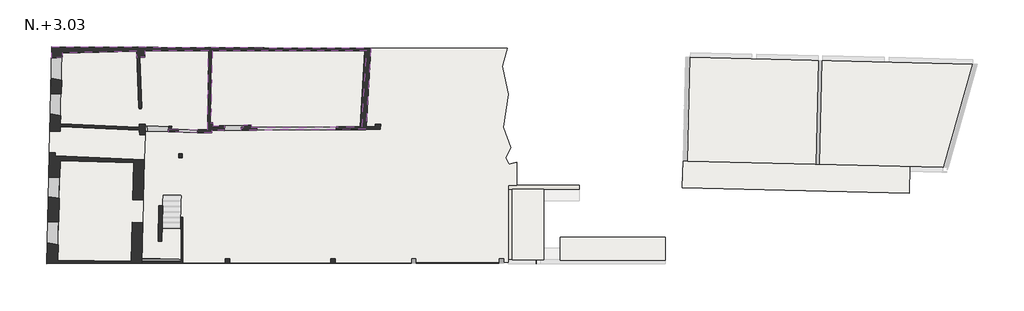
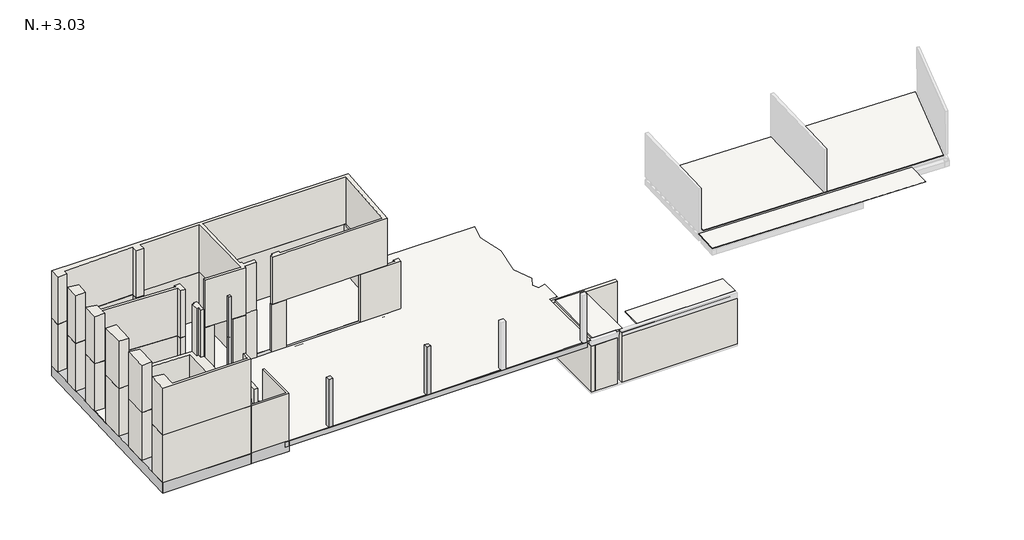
# One storey, part 1 of 2: 14 beams, 7 slabs, 7 walls, 4 columns.
"""IFC4 building model written with IfcOpenShell, lengths in millimetres."""

import ifcopenshell
import ifcopenshell.guid

model = None  # the IFC model being written
_history = None  # IfcOwnerHistory: only IFC2X3 demands one
_inside = {}  # id of a spatial element -> (the spatial element, [elements in it])
_under = {}  # id of a project, library or spatial element -> (it, [spatial elements below it])
_declared = {}  # id of a project -> (the project, [libraries it declares])
_typed = {}  # id of a type object -> (the type object, [elements of that type])
_made_of = {}  # id of a material, layer set ... -> (it, [elements and type objects made of it])


def new_model(schema):
    """Start an empty IFC model of exactly this schema.

    Asked for "IFC4X3", IfcOpenShell would pick the latest addendum, in which some entities
    have other attributes; the version numbers below select the first issue.
    IFC2X3 requires an IfcOwnerHistory on every rooted entity: one is made here for all.
    """
    global model, _history
    if schema == "IFC4X3":
        model = ifcopenshell.file(schema_version=(4, 3, 0, 0))
    else:
        model = ifcopenshell.file(schema=schema)
    _inside.clear()
    _under.clear()
    _declared.clear()
    _typed.clear()
    _made_of.clear()
    _history = None
    if model.schema == "IFC2X3":
        org = make("IfcOrganization", Name="unknown")
        user = make(
            "IfcPersonAndOrganization",
            ThePerson=make("IfcPerson", FamilyName="unknown"),
            TheOrganization=org,
        )
        app = make(
            "IfcApplication",
            ApplicationDeveloper=org,
            Version="unknown",
            ApplicationFullName="unknown",
            ApplicationIdentifier="unknown",
        )
        _history = make(
            "IfcOwnerHistory",
            OwningUser=user,
            OwningApplication=app,
            ChangeAction="ADDED",
            CreationDate=0,
        )
    return model


def make(cls, **values):
    """One entity of the class cls with the attributes given. An attribute that is None is left unset."""
    return model.create_entity(
        cls, **{name: value for name, value in values.items() if value is not None}
    )


def rooted(cls, **values):
    """An entity with a GlobalId (a new one), such as an element, a storey or a relation."""
    return make(cls, GlobalId=ifcopenshell.guid.new(), OwnerHistory=_history, **values)


def si_unit(unit_type, name, prefix=None):
    """IfcSIUnit, for example si_unit("LENGTHUNIT", "METRE", prefix="MILLI")."""
    return make("IfcSIUnit", UnitType=unit_type, Prefix=prefix, Name=name)


def assignment(units):
    """IfcUnitAssignment: the units of a project."""
    return None if units is None else make("IfcUnitAssignment", Units=units)


def point(xyz):
    """IfcCartesianPoint."""
    return None if xyz is None else make("IfcCartesianPoint", Coordinates=xyz)


def direction(xyz):
    """IfcDirection."""
    return None if xyz is None else make("IfcDirection", DirectionRatios=xyz)


def frame(location, z_axis=None, x_axis=None):
    """IfcAxis2Placement3D, a coordinate frame: its origin and axes. An axis left out is left unset."""
    return make(
        "IfcAxis2Placement3D",
        Location=point(location),
        Axis=direction(z_axis),
        RefDirection=direction(x_axis),
    )


def origin():
    """The frame at (0, 0, 0) with its axes left unset."""
    return frame((0.0, 0.0, 0.0))


def origin_with_axes():
    """The frame at (0, 0, 0) with the z axis (0, 0, 1) and the x axis (1, 0, 0) written out."""
    return frame((0.0, 0.0, 0.0), z_axis=(0.0, 0.0, 1.0), x_axis=(1.0, 0.0, 0.0))


def place(relative_to, where):
    """IfcLocalPlacement: puts the frame where relative to a parent placement (None: the world)."""
    return make(
        "IfcLocalPlacement", PlacementRelTo=relative_to, RelativePlacement=where
    )


def context(
    kind, dimensions, precision=None, world=None, true_north=None, identifier=None
):
    """IfcGeometricRepresentationContext, for example the 3D "Model" context."""
    return make(
        "IfcGeometricRepresentationContext",
        ContextIdentifier=identifier,
        ContextType=kind,
        CoordinateSpaceDimension=dimensions,
        Precision=precision,
        WorldCoordinateSystem=world,
        TrueNorth=true_north,
    )


def project(units=None, contexts=None):
    """IfcProject with its units and contexts."""
    return rooted(
        "IfcProject",
        Name="project",
        RepresentationContexts=contexts,
        UnitsInContext=assignment(units),
    )


def spatial(cls, under=None, at=None, **own):
    """A site, building, storey or space (cls), placed at a placement, below another one or the project."""
    s = rooted(cls, ObjectPlacement=at, **own)
    if under is not None:
        _under.setdefault(under.id(), (under, []))[1].append(s)
    return s


def polyline(points):
    """IfcPolyline through the points."""
    return make("IfcPolyline", Points=[point(p) for p in points])


def outline(outer, holes=None, kind="AREA"):
    """IfcArbitraryClosedProfileDef: a profile drawn as a closed curve; with holes, ...WithVoids."""
    if holes is None:
        return make("IfcArbitraryClosedProfileDef", ProfileType=kind, OuterCurve=outer)
    return make(
        "IfcArbitraryProfileDefWithVoids",
        ProfileType=kind,
        OuterCurve=outer,
        InnerCurves=holes,
    )


def extrude(swept, where, along, depth):
    """IfcExtrudedAreaSolid: the profile swept, set in the frame where, extruded along a direction by depth."""
    return make(
        "IfcExtrudedAreaSolid",
        SweptArea=swept,
        Position=where,
        ExtrudedDirection=direction(along),
        Depth=depth,
    )


def faces_of(points, faces, orient=None, outer=None):
    """IfcFace entities. A face is a list of loops; a loop is a list of indices into points, from 0.

    orient and outer hold one flag for each loop. By default every Orientation is true, the
    first loop of a face is its IfcFaceOuterBound and the others are IfcFaceBound.
    """
    made = []
    for i, loops in enumerate(faces):
        bounds = []
        for j, loop in enumerate(loops):
            is_outer = j == 0 if outer is None else outer[i][j]
            bounds.append(
                make(
                    "IfcFaceOuterBound" if is_outer else "IfcFaceBound",
                    Bound=make("IfcPolyLoop", Polygon=[points[k] for k in loop]),
                    Orientation=True if orient is None else orient[i][j],
                )
            )
        made.append(make("IfcFace", Bounds=bounds))
    return made


def faceted_brep(points, faces, orient=None, outer=None, voids=None):
    """IfcFacetedBrep: a solid bounded by flat faces; with voids (closed shells), ...WithVoids."""
    shared = [point(p) for p in points]
    hull = make("IfcClosedShell", CfsFaces=faces_of(shared, faces, orient, outer))
    if voids is None:
        return make("IfcFacetedBrep", Outer=hull)
    return make(
        "IfcFacetedBrepWithVoids",
        Outer=hull,
        Voids=[
            make(cls, CfsFaces=faces_of(shared, fs, o, b)) for cls, fs, o, b in voids
        ],
    )


def shape(context_of_items, identifier, shape_type, items):
    """IfcShapeRepresentation: the items that make up one representation, for example the "Body"."""
    return make(
        "IfcShapeRepresentation",
        ContextOfItems=context_of_items,
        RepresentationIdentifier=identifier,
        RepresentationType=shape_type,
        Items=items,
    )


def source(mapping_origin, context_of_items, identifier, shape_type, items):
    """IfcRepresentationMap: a shape defined once, which mapped items show again and again."""
    return make(
        "IfcRepresentationMap",
        MappingOrigin=mapping_origin,
        MappedRepresentation=shape(context_of_items, identifier, shape_type, items),
    )


def transform(
    local_origin,
    x_axis=None,
    y_axis=None,
    z_axis=None,
    scale=None,
    scale2=None,
    scale3=None,
    uniform=True,
):
    """IfcCartesianTransformationOperator3D, or its non-uniform kind. x_axis, y_axis, z_axis: its Axis1, 2, 3."""
    if uniform:
        return make(
            "IfcCartesianTransformationOperator3D",
            Axis1=direction(x_axis),
            Axis2=direction(y_axis),
            LocalOrigin=point(local_origin),
            Scale=scale,
            Axis3=direction(z_axis),
        )
    return make(
        "IfcCartesianTransformationOperator3DnonUniform",
        Axis1=direction(x_axis),
        Axis2=direction(y_axis),
        LocalOrigin=point(local_origin),
        Scale=scale,
        Axis3=direction(z_axis),
        Scale2=scale2,
        Scale3=scale3,
    )


def mapped(mapping_source, mapping_target):
    """IfcMappedItem: shows the shape of a source again, moved by a transform."""
    return make(
        "IfcMappedItem", MappingSource=mapping_source, MappingTarget=mapping_target
    )


def made_of(thing, what):
    """Note that an element or type object is made of a material, layer set ...; save() writes the relation."""
    if what is not None:
        _made_of.setdefault(what.id(), (what, []))[1].append(thing)
    return thing


def element(
    cls,
    number,
    at=None,
    inside=None,
    cuts=None,
    type_object=None,
    material=None,
    context=None,
    identifier="Body",
    shape_type=None,
    held_by="IfcProductDefinitionShape",
    body=None,
    shapes=None,
    **own,
):
    """One element of the class cls, such as IfcWall. Its Tag is "e" and its number.

    at: its placement. inside: the storey or other place that contains it. cuts: it is an
    opening in that element (IfcRelVoidsElement). A single representation is given by context,
    identifier, shape_type and body (its items); several are given by shapes. held_by: the class
    of the entity that holds the representations. save() writes the other relations.
    """
    e = rooted(cls, Tag="e%d" % number, ObjectPlacement=at, **own)
    if body is not None:
        shapes = [shape(context, identifier, shape_type, body)]
    if shapes is not None:
        e.Representation = make(held_by, Representations=shapes)
    if inside is not None:
        _inside.setdefault(inside.id(), (inside, []))[1].append(e)
    if cuts is not None:
        rooted(
            "IfcRelVoidsElement", RelatingBuildingElement=cuts, RelatedOpeningElement=e
        )
    if type_object is not None:
        _typed.setdefault(type_object.id(), (type_object, []))[1].append(e)
    return made_of(e, material)


def aggregate(whole, parts):
    """IfcRelAggregates: a whole, such as a stair, and the parts it consists of."""
    return rooted("IfcRelAggregates", RelatingObject=whole, RelatedObjects=parts)


def save(model, path):
    """Write the relations noted so far, then the file.

    IfcRelAggregates (storeys below a building ...), IfcRelContainedInSpatialStructure (elements
    in a storey), IfcRelDefinesByType, IfcRelAssociatesMaterial and IfcRelDeclares: one each for
    every whole, place, type object, material and project.
    """
    for whole, parts in _under.values():
        aggregate(whole, parts)
    for where, things in _inside.values():
        rooted(
            "IfcRelContainedInSpatialStructure",
            RelatedElements=things,
            RelatingStructure=where,
        )
    for kind, things in _typed.values():
        rooted("IfcRelDefinesByType", RelatedObjects=things, RelatingType=kind)
    for what, things in _made_of.values():
        rooted("IfcRelAssociatesMaterial", RelatedObjects=things, RelatingMaterial=what)
    for by, libraries in _declared.values():
        rooted("IfcRelDeclares", RelatingContext=by, RelatedDefinitions=libraries)
    model.write(path)


def muros_1_muros_1_ea26e121(model_context):
    return source(origin(), model_context, "Body", "SweptSolid", [
        extrude(outline(polyline([(773.7056596, 9477.1283443), (756.7893339, 8791.3319354), (216.0906298, 8762.4895163), (236.472405, 9585.7021848), (773.7056596, 9477.1283443)])), origin_with_axes(), (0.0, 0.0, 1.0), 2800.0),
        extrude(outline(polyline([(726.8927321, 7640.951983), (718.6114662, 7243.5818475), (4794.4421844, 7059.1834792), (4789.3968286, 7197.2750883), (5089.9482141, 7207.4676108), (5096.1057711, 6675.7228114), (4807.6610083, 6669.3999248), (4800.7723108, 6907.9924654), (714.907522, 7093.4220765), (707.6047788, 6853.2043412), (168.5264063, 6841.3874121), (191.0313797, 7750.355302), (726.8927321, 7640.951983)])), origin_with_axes(), (0.0, 0.0, 1.0), 2800.0),
        extrude(outline(polyline([(110.0970895, 4469.0213486), (141.4283569, 5742.8187201), (441.3371319, 5735.4209641), (437.4411007, 5577.4738869), (5050.5969627, 5377.9819398), (4999.4665431, 3295.7064131), (4447.927801, 3301.7085269), (4497.4442571, 5228.3208511), (706.2771097, 5321.4132239), (687.0570653, 4469.0213486), (110.0970895, 4469.0213486)])), origin_with_axes(), (0.0, 0.0, 1.0), 2800.0),
        extrude(outline(polyline([(663.5539278, 3373.4495511), (635.4130453, 2178.7233012), (52.8263359, 2150.8479365), (85.1762534, 3462.3299709), (663.5539278, 3373.4495511)])), origin_with_axes(), (0.0, 0.0, 1.0), 2800.0),
        extrude(outline(polyline([(4919.2590447, 29.2774197), (-0.0024191, 9.1434656), (26.5434598, 1085.3268361), (608.5511563, 987.3541022), (590.6369266, 192.8739512), (4370.2295226, 137.462624), (4419.2389659, 2133.3618043), (4970.5949205, 2119.8232201), (4919.2590447, 29.2774197)])), origin_with_axes(), (0.0, 0.0, 1.0), 2800.0),
        extrude(outline(polyline([(10539.8103337, 7051.7389365), (10844.3217347, 7053.3848776), (10845.1369044, 6902.5724117), (10045.2306249, 6898.1303926), (10044.4329024, 7041.7820123), (10189.6255797, 7044.7003376), (10191.9584013, 7159.8603383), (10539.2157717, 7161.7373295), (10539.8103337, 7051.7389365)])), origin_with_axes(), (0.0, 0.0, 1.0), 2800.0),
        extrude(outline(polyline([(6793.3498128, 6808.449815), (6296.9873014, 6821.9794258), (6304.5771936, 7101.8765402), (6454.3964606, 7097.7928386), (6450.8542987, 6967.8411055), (6797.4369227, 6958.3941229), (6793.3498128, 6808.449815)])), origin_with_axes(), (0.0, 0.0, 1.0), 2800.0),
        extrude(outline(polyline([(276.6718664, 11220.5013177), (16746.625913, 11145.3896797), (16507.1426607, 7084.0168311), (16987.295149, 7086.6832018), (16989.7263267, 7206.698553), (17249.8089245, 7208.1428371), (17244.3387749, 6938.1082966), (14975.0732259, 6925.5066686), (14974.2391325, 7075.7078544), (16208.7614203, 7082.3806785), (16439.5076653, 11000.5819197), (8519.5092426, 11000.5819197), (8444.0125616, 7278.9874463), (8594.0870703, 7281.1464358), (8589.2263343, 7041.1956637), (8929.4346078, 7048.0337385), (8931.2573839, 7138.0152782), (9191.4166519, 7143.2443939), (9182.9488286, 6872.3178924), (8523.0374073, 6909.8776456), (8523.490345, 6761.290476), (7792.9785335, 6781.2024158), (7797.0656433, 6931.1467237), (8315.8894203, 6917.0048745), (8369.484095, 11002.755842), (5074.9441574, 11002.755842), (5082.3279072, 10666.1035913), (4822.4011881, 10660.4026526), (4914.6370241, 8057.0453524), (4760.7788975, 8051.827601), (4661.5806035, 10976.93126), (808.6174979, 10892.471941), (802.8559852, 10658.8973011), (261.4434951, 10603.861724), (276.6718664, 11220.5013177)])), origin_with_axes(), (0.0, 0.0, 1.0), 2800.0),
    ])


def muros_2_muros_2_62093be4(model_context):
    return source(origin(), model_context, "Body", "SweptSolid", [
        extrude(outline(polyline([(6947.4785808, 148.3723097), (6947.4785808, 2399.3030939), (7036.7454884, 2399.3030939), (7036.7454884, 37.8825208), (4919.2577739, 29.2158946), (4921.5562839, 122.8276602), (6947.4785808, 148.3723097)])), origin_with_axes(), (0.0, 0.0, 1.0), 2800.0),
        extrude(outline(polyline([(5957.476782, 1155.2378128), (5757.5370054, 1160.1473478), (5806.2411759, 2991.3519334), (6006.1809092, 2986.4423994), (5957.476782, 1155.2378128)])), origin_with_axes(), (0.0, 0.0, 1.0), 2800.0),
    ])


def muros_3_muros_3_1f336510(model_context):
    return source(origin(), model_context, "Body", "SweptSolid", [
        extrude(outline(polyline([(236.472405, 9585.7021848), (773.7056596, 9477.1283443), (756.7893339, 8791.3319354), (216.0906298, 8762.4895163), (236.472405, 9585.7021848)])), frame((0.0, 0.0, 2820.0), z_axis=(0.0, 0.0, 1.0), x_axis=(1.0, 0.0, 0.0)), (0.0, 0.0, 1.0), 2815.0),
        extrude(outline(polyline([(6306.6916509, 6967.3525922), (8315.8314877, 6912.5884256), (8369.484095, 11002.755842), (5074.4462375, 11002.755842), (5081.9266474, 10661.6965007), (4672.0252493, 10652.706187), (4661.0484219, 10976.9195943), (808.6174979, 10892.471941), (802.8559852, 10658.8973011), (261.4434951, 10603.861724), (276.6718664, 11220.5013177), (16746.4845601, 11145.3903243), (16498.7361698, 6943.8498156), (10056.2246907, 6898.6668051), (10055.4539754, 7037.4550295), (10189.2243199, 7040.293247), (10191.87046, 7171.8263194), (10579.0243183, 7173.7033106), (10579.3051053, 7047.5369156), (16296.5986764, 7078.4537169), (16527.3756277, 10995.4040787), (8557.1019783, 10995.4040787), (8481.6052972, 7273.8096053), (8593.6858106, 7276.7393451), (8590.6477122, 7126.7701103), (9191.0153921, 7138.8373033), (9183.3175083, 6892.5448797), (8525.764667, 6887.9332905), (8523.0890852, 6756.8833853), (6302.6045411, 6817.4082858), (6306.6916509, 6967.3525922)])), frame((0.0, 0.0, 2810.0), z_axis=(0.0, 0.0, 1.0), x_axis=(1.0, 0.0, 0.0)), (0.0, 0.0, 1.0), 2770.0),
        extrude(outline(polyline([(718.5193301, 7239.1607716), (4794.0409246, 7054.7763886), (4788.9955688, 7192.8679977), (5089.9990703, 7203.0758527), (5096.1566901, 6671.3256328), (4807.2597485, 6664.9928342), (4800.371051, 6903.5853748), (714.773176, 7089.0028724), (707.6047788, 6853.2043412), (168.5264063, 6841.3874121), (191.0313797, 7750.355302), (726.8927321, 7640.951983), (718.5193301, 7239.1607716)])), frame((0.0, 0.0, 2810.0), z_axis=(0.0, 0.0, 1.0), x_axis=(1.0, 0.0, 0.0)), (0.0, 0.0, 1.0), 2770.0),
        extrude(outline(polyline([(715.4598426, 5728.6592649), (687.0570653, 4469.0213486), (110.0970895, 4469.0213486), (141.4283569, 5742.8187201), (715.4598426, 5728.6592649)])), frame((0.0, 0.0, 2810.0), z_axis=(0.0, 0.0, 1.0), x_axis=(1.0, 0.0, 0.0)), (0.0, 0.0, 1.0), 2770.0),
        extrude(outline(polyline([(663.5539278, 3373.4495511), (635.4130453, 2178.7233012), (52.8263359, 2150.8479365), (85.1762534, 3462.3299709), (663.5539278, 3373.4495511)])), frame((0.0, 0.0, 2810.0), z_axis=(0.0, 0.0, 1.0), x_axis=(1.0, 0.0, 0.0)), (0.0, 0.0, 1.0), 2770.0),
        extrude(outline(polyline([(4774.2409294, 140.2623625), (4781.8753132, 553.1701949), (4910.3947558, 550.7939582), (4897.9109072, 29.1900443), (-0.0024191, 9.1434656), (26.5434598, 1085.3268361), (608.5511563, 987.3541022), (589.4506213, 140.2623625), (4774.2409294, 140.2623625)])), frame((0.0, 0.0, 2810.0), z_axis=(0.0, 0.0, 1.0), x_axis=(1.0, 0.0, 0.0)), (0.0, 0.0, 1.0), 2770.0),
        extrude(outline(polyline([(5028.0256196, 5465.682078), (5010.8884985, 4749.6537314), (4859.5171739, 4752.4524837), (4863.5977742, 4973.1529203), (4744.6962043, 4970.3402342), (4752.6354343, 5399.7357621), (4871.4443841, 5397.5390657), (4873.1639975, 5469.3884709), (5028.0256196, 5465.682078)])), frame((0.0, 0.0, 2810.0), z_axis=(0.0, 0.0, 1.0), x_axis=(1.0, 0.0, 0.0)), (0.0, 0.0, 1.0), 2770.0),
    ])


model = new_model("IFC4")

# Units and contexts
model_context = context("Model", 3, world=origin())
ifc_project = project(units=[si_unit("LENGTHUNIT", "METRE", prefix="MILLI")], contexts=[model_context])

# Site, building, storey
site = spatial("IfcSite", under=ifc_project)
building = spatial("IfcBuilding", under=site)
storey = spatial("IfcBuildingStorey", under=building, Name="N.+3.03", Elevation=0.0)

# Beams
placement = place(None, origin())
element("IfcBeam", 1, ObjectType="Concrete-Rectangular Beam : VC-102(53X60)", at=placement, inside=storey, context=model_context, shape_type="Brep", body=[
    faceted_brep([(5215.2135283, 6748.5141637, 1.79e-05), (4786.4012165, 7296.2896181, -1.79e-05), (724.1919308, 7460.5751269, -0.0003407), (711.1209389, 6930.6704955, -0.0003401), (5215.2135789, 6748.5141616, -599.9999821), (711.1209389, 6930.6704955, -600.0003401), (4786.4012672, 7296.2896161, -600.0000179), (724.1919304, 7460.5751269, -600.0003407)], [[[0, 1, 2, 3]], [[4, 0, 3, 5]], [[6, 4, 5, 7]], [[1, 6, 7, 2]], [[3, 2, 7, 5]], [[1, 0, 4, 6]]]),
])
element("IfcBeam", 2, ObjectType="Concrete-Rectangular Beam : VC-102(53X60)", at=placement, inside=storey, context=model_context, shape_type="Brep", body=[
    faceted_brep([(16487.9387103, 6749.1544178, 0.0), (16519.1907348, 7279.1544178, 0.0), (5197.2180635, 7279.1544178, 0.0), (5215.1918183, 6749.1544178, 0.0), (6767.8981228, 6749.1544178, 0.0), (7067.8981228, 6749.1544178, 0.0), (16487.9387103, 6749.1544178, -600.0), (5215.1918183, 6749.1544178, -600.0), (6767.8981228, 6749.1544178, -600.0), (7067.8981228, 6749.1544178, -600.0), (16519.1907348, 7279.1544178, -600.0), (5197.2180635, 7279.1544178, -600.0)], [[[0, 1, 2, 3, 4, 5]], [[6, 0, 5, 4, 3, 7, 8, 9]], [[10, 6, 9, 8, 7, 11]], [[1, 10, 11, 2]], [[1, 0, 6, 10]], [[3, 2, 11, 7]]]),
    faceted_brep([(4579.4546245, 6749.1544178, 0.0), (4602.3740313, 7279.1544178, 0.0), (4602.3740313, 7279.1544178, -600.0), (4579.4546245, 6749.1544178, -600.0), (4799.8150795, 7279.1544178, 0.0), (4799.8151285, 7279.1544178, -600.0), (5214.7123214, 6749.1544178, 0.0), (5214.7123704, 6749.1544178, -600.0), (5109.9499583, 6749.1544178, 0.0), (5109.9499583, 6749.1544178, -600.0)], [[[0, 1, 2, 3]], [[2, 1, 4, 5]], [[4, 6, 7, 5]], [[1, 0, 8, 6, 4]], [[0, 3, 9, 7, 6, 8]], [[3, 2, 5, 7, 9]]]),
])
element("IfcBeam", 3, ObjectType="Concrete-Rectangular Beam : VC-103A(30X60)", at=placement, inside=storey, context=model_context, shape_type="Brep", body=[
    faceted_brep([(7067.8981228, 5443.1244414, 0.0), (7067.8981228, 5743.1244414, 0.0), (6767.8981228, 5743.1244414, 0.0), (5066.4450332, 5743.1244414, 0.0), (5053.471784, 5443.1244414, 0.0), (7067.8981228, 5743.1244414, -600.0), (6767.8981228, 5743.1244414, -600.0), (5066.4450332, 5743.1244414, -600.0), (7067.8981228, 5443.1244414, -600.0), (5053.471784, 5443.1244414, -600.0)], [[[0, 1, 2, 3, 4]], [[1, 5, 6, 7, 3, 2]], [[5, 8, 9, 7, 6]], [[8, 0, 4, 9]], [[4, 3, 7, 9]], [[1, 0, 8, 5]]]),
])
element("IfcBeam", 4, ObjectType="Concrete-Rectangular Beam : VC-104(41X60)", at=placement, inside=storey, context=model_context, shape_type="Brep", body=[
    faceted_brep([(4918.9639007, 17.2472767, 6.11e-05), (4398.8263014, 425.4260476, -6.11e-05), (550.3252561, 411.932116, -0.0009683), (-6.93e-05, -2e-07, -0.0010983), (4918.9640371, 17.2472772, -599.9999389), (0.0, 0.0, -600.0010983), (4398.8264378, 425.4260481, -600.0000611), (550.3253254, 411.9321163, -600.0009683)], [[[0, 1, 2, 3]], [[4, 0, 3, 5]], [[6, 4, 5, 7]], [[1, 6, 7, 2]], [[2, 7, 5, 3]], [[1, 0, 4, 6]]]),
])
element("IfcBeam", 5, ObjectType="Concrete-Rectangular Beam : VC-105(53X60)", at=placement, inside=storey, context=model_context, shape_type="Brep", body=[
    faceted_brep([(4398.8264352, 425.4259426, 0.0), (4918.9639007, 17.2472767, 0.0), (4992.5317704, 3013.4569836, 0.0), (4999.8956598, 3313.3672174, 0.0), (5050.5037266, 5374.4895749, 0.0), (4520.7848557, 5392.444898, 0.0), (4398.8264378, 425.4260481, -600.0), (4520.7848557, 5392.444898, -600.0), (4918.9639033, 17.2473822, -600.0), (5050.5037266, 5374.4895749, -600.0), (4999.8956598, 3313.3672174, -600.0), (4992.5317704, 3013.4569836, -600.0)], [[[0, 1, 2, 3, 4, 5]], [[6, 0, 5, 7]], [[8, 6, 7, 9, 10, 11]], [[1, 8, 11, 10, 9, 4, 3, 2]], [[4, 9, 7, 5]], [[1, 0, 6, 8]]]),
])
element("IfcBeam", 6, ObjectType="Concrete-Rectangular Beam : VC-105(53X60)", at=placement, inside=storey, context=model_context, shape_type="Brep", body=[
    faceted_brep([(5109.9499583, 6749.1544178, 0.0), (4579.4546245, 6749.1544178, 0.0), (4520.7848557, 5392.444898, 0.0), (5050.5037266, 5374.4895749, 0.0), (5053.471784, 5443.1244414, 0.0), (5066.4450332, 5743.1244414, 0.0), (5109.9499583, 6749.1544178, -600.0), (5050.5037266, 5374.4895749, -600.0), (5053.471784, 5443.1244414, -600.0), (5066.4450332, 5743.1244414, -600.0), (4579.4546245, 6749.1544178, -600.0), (4520.7848557, 5392.444898, -600.0)], [[[0, 1, 2, 3, 4, 5]], [[6, 0, 5, 4, 3, 7, 8, 9]], [[10, 6, 9, 8, 7, 11]], [[2, 1, 10, 11]], [[1, 0, 6, 10]], [[2, 11, 7, 3]]]),
])
element("IfcBeam", 7, ObjectType="Concrete-Rectangular Beam : VC-105(54X60)", at=placement, inside=storey, context=model_context, shape_type="Brep", body=[
    faceted_brep([(1.3e-06, 5.26e-05, -0.0010537), (550.3252561, 411.932116, -0.0010129), (805.0368071, 10738.0673379, -2.25e-05), (276.7725886, 11220.5008547, 2.25e-05), (0.0, 0.0, -600.0010537), (276.77259, 11220.5009112, -599.9999775), (550.3252548, 411.9320634, -600.0010129), (805.0368085, 10738.0673944, -600.0000225)], [[[0, 1, 2, 3]], [[4, 0, 3, 5]], [[6, 4, 5, 7]], [[1, 6, 7, 2]], [[1, 0, 4, 6]], [[2, 7, 5, 3]]]),
])
element("IfcBeam", 8, ObjectType="Concrete-Rectangular Beam : VC-105A(30X60)", at=placement, inside=storey, context=model_context, shape_type="Brep", body=[
    faceted_brep([(6064.1848953, 3285.0605362, 0.0), (5764.2909433, 3293.0367538, 0.0), (5756.2645335, 2993.1441409, 0.0), (5682.2908303, 229.2474963, 0.0), (5982.3982601, 229.2474963, 0.0), (5764.2909433, 3293.0367538, -600.0), (5756.2645335, 2993.1441409, -600.0), (5682.2908303, 229.2474963, -600.0), (6064.1848953, 3285.0605362, -600.0), (5982.3982601, 229.2474963, -600.0)], [[[0, 1, 2, 3, 4]], [[1, 5, 6, 7, 3, 2]], [[5, 8, 9, 7, 6]], [[8, 0, 4, 9]], [[4, 3, 7, 9]], [[1, 0, 8, 5]]]),
])
element("IfcBeam", 9, ObjectType="Concrete-Rectangular Beam : VC-105A(30X60)", at=placement, inside=storey, context=model_context, shape_type="SweptSolid", body=[
    extrude(outline(polyline([(5764.2909433, 3293.0367538), (5756.2645335, 2993.1441409), (4992.5317704, 3013.4569836), (4999.8956598, 3313.3672174), (5764.2909433, 3293.0367538)])), frame((0.0, 0.0, -600.0), z_axis=(0.0, 0.0, 1.0), x_axis=(1.0, 0.0, 0.0)), (0.0, 0.0, 1.0), 600.0),
])
element("IfcBeam", 10, ObjectType="Concrete-Rectangular Beam : VC-105B(30X60)", at=placement, inside=storey, context=model_context, shape_type="SweptSolid", body=[
    extrude(outline(polyline([(6837.4740086, 2399.3645951), (7037.4740086, 2399.3645951), (7037.4740086, 229.2474963), (6837.4740086, 229.2474963), (6837.4740086, 2399.3645951)])), frame((0.0, 0.0, -600.0), z_axis=(0.0, 0.0, 1.0), x_axis=(1.0, 0.0, 0.0)), (0.0, 0.0, 1.0), 600.0),
])
element("IfcBeam", 11, ObjectType="Concrete-Rectangular Beam : VC-106(30X60)", at=placement, inside=storey, context=model_context, shape_type="SweptSolid", body=[
    extrude(outline(polyline([(6767.8981228, 6749.1544178), (7067.8981228, 6749.1544178), (7067.8981228, 5743.1244414), (6767.8981228, 5743.1244414), (6767.8981228, 6749.1544178)])), frame((0.0, 0.0, -600.0), z_axis=(0.0, 0.0, 1.0), x_axis=(1.0, 0.0, 0.0)), (0.0, 0.0, 1.0), 600.0),
])
element("IfcBeam", 12, ObjectType="Concrete-Rectangular Beam : VC-109(32X30)", at=placement, inside=storey, context=model_context, shape_type="Brep", body=[
    faceted_brep([(23621.5331082, 33.7405463, 0.0), (23621.5331082, 33.7405463, -300.0), (23621.4603626, 263.7405348, -300.0), (23621.4603626, 263.7405348, 0.0), (7037.4740086, 258.4952623, 0.0), (7037.4740086, 229.2474963, 0.0), (7037.4740086, 29.2474963, 0.0), (6837.4740086, 29.2474963, 0.0), (6837.4740086, 28.4319938, 0.0), (7037.4740086, 258.4952623, -300.0), (6837.4740086, 28.4319938, -300.0), (6837.4740086, 29.2474963, -300.0), (7037.4740086, 29.2474963, -300.0)], [[[0, 1, 2, 3]], [[0, 3, 4, 5, 6, 7, 8]], [[3, 2, 9, 4]], [[2, 1, 10, 11, 12, 9]], [[1, 0, 8, 10]], [[6, 12, 11, 7]], [[12, 6, 5, 4, 9]], [[10, 8, 7, 11]]]),
])
element("IfcBeam", 13, ObjectType="Concrete-Rectangular Beam : VC-109A(30X60)", at=placement, inside=storey, context=model_context, shape_type="Brep", body=[
    faceted_brep([(4912.3935032, 229.2474963, 0.0), (4912.3935032, 229.2474963, -600.0), (4912.3935032, 29.2474963, -600.0), (4912.3935032, 29.2474963, 0.0), (6837.4740086, 29.2474963, 0.0), (7037.4740086, 29.2474963, 0.0), (7037.4740086, 229.2474963, 0.0), (6837.4740086, 229.2474963, 0.0), (5982.3982601, 229.2474963, 0.0), (5682.2908303, 229.2474963, 0.0), (7037.4740086, 29.2474963, -600.0), (7037.4740086, 29.2474963, -300.0), (5682.2908303, 229.2474963, -600.0), (5982.3982601, 229.2474963, -600.0), (6837.4740086, 229.2474963, -600.0), (7037.4740086, 229.2474963, -600.0)], [[[0, 1, 2, 3]], [[0, 3, 4, 5, 6, 7, 8, 9]], [[3, 2, 10, 11, 5, 4]], [[2, 1, 12, 13, 14, 15, 10]], [[1, 0, 9, 8, 7, 6, 15, 14, 13, 12]], [[6, 5, 11, 10, 15]]]),
])
element("IfcBeam", 14, ObjectType="Concrete-Rectangular Beam : VG-103(35x60)", at=placement, inside=storey, context=model_context, shape_type="Brep", body=[
    faceted_brep([(4528.7442414, 5467.7124584, 0.0), (4513.6229164, 5118.0392602, 0.0), (4513.6229932, 5118.0392569, -600.0), (4528.7443183, 5467.7124551, -600.0), (679.1409445, 5634.1853341, -0.0004941), (670.5087431, 5284.2315192, -0.0004933), (670.5087431, 5284.2315192, -600.0004933), (679.1409443, 5634.1853341, -600.0004941)], [[[0, 1, 2, 3]], [[1, 0, 4, 5]], [[2, 1, 5, 6]], [[3, 2, 6, 7]], [[0, 3, 7, 4]], [[5, 4, 7, 6]]]),
])

# Columns
element("IfcColumn", 15, ObjectType="Concrete-Rectangular-Column : COLUMNA 15X15", at=placement, inside=storey, context=model_context, shape_type="Brep", body=[
    faceted_brep([(6992.1130607, 5659.7579037, 500.0), (6993.6750519, 5509.7660366, 500.0), (6843.6831849, 5508.2040454, 500.0), (6842.1211936, 5658.1959124, 500.0), (6992.1130607, 5659.7579037, 2800.0), (6993.0513506, 5569.6576194, 2800.0), (6993.0513506, 5569.6576194, 2820.0), (6992.1130607, 5659.7579037, 2820.0), (6992.1130607, 5659.7579037, 5190.0), (6993.6750519, 5509.7660366, 5190.0), (6843.6831849, 5508.2040454, 5190.0), (6843.6831849, 5508.2040454, 2820.0), (6932.7496062, 5509.1315688, 2820.0), (6932.7496062, 5509.1315688, 2800.0), (6843.6831849, 5508.2040454, 2800.0), (6842.1211936, 5658.1959124, 5190.0), (6842.1211936, 5658.1959124, 2820.0), (6931.2494577, 5569.3148968, 2800.0), (6949.7975337, 5659.3172366, 2800.0), (6919.7975337, 5659.0048214, 2800.0), (6842.1211936, 5658.1959124, 2800.0), (6931.2494577, 5569.3148968, 2820.0)], [[[0, 1, 2, 3]], [[1, 0, 4, 5, 6, 7, 8, 9]], [[2, 1, 9, 10, 11, 12, 13, 14]], [[10, 15, 16, 11]], [[15, 8, 7, 16]], [[9, 8, 15, 10]], [[13, 17, 5, 4, 18, 19, 20, 14]], [[6, 21, 12, 11, 16, 7]], [[21, 17, 13, 12]], [[3, 2, 14, 20]], [[17, 21, 6, 5]], [[0, 3, 20, 19, 18, 4]]]),
])
element("IfcColumn", 16, ObjectType="Concrete-Rectangular-Column : COLUMNA PATIO", at=placement, inside=storey, context=model_context, shape_type="SweptSolid", body=[
    extrude(outline(polyline([(9466.5068452, 267.8142238), (9466.5068452, 37.8142238), (9236.5068452, 37.8142238), (9236.5068452, 267.8142238), (9466.5068452, 267.8142238)])), frame((0.0, 0.0, 10.0), z_axis=(0.0, 0.0, 1.0), x_axis=(1.0, 0.0, 0.0)), (0.0, 0.0, 1.0), 2810.0),
])
element("IfcColumn", 17, ObjectType="Concrete-Rectangular-Column : COLUMNA PATIO", at=placement, inside=storey, context=model_context, shape_type="Brep", body=[
    faceted_brep([(14919.6402407, 30.9518977, 0.0), (14689.6402407, 30.9518977, 0.0), (14689.6402407, 51.5060275, 0.0), (14919.6402407, 52.3124725, 0.0), (14919.6402407, 260.9518977, 2820.0), (14919.6402407, 30.9518977, 2820.0), (14919.6402407, 52.3124725, 10.0), (14919.6402407, 260.9518977, 10.0), (14689.6402407, 30.9518977, 2820.0), (14689.6402407, 260.9518977, 2820.0), (14689.6402407, 260.9518977, 10.0), (14689.6402407, 51.5060275, 10.0)], [[[0, 1, 2, 3]], [[4, 5, 0, 3, 6, 7]], [[1, 0, 5, 8]], [[1, 8, 9, 10, 11, 2]], [[9, 4, 7, 10]], [[5, 4, 9, 8]], [[6, 11, 10, 7]], [[11, 6, 3, 2]]]),
])
element("IfcColumn", 18, ObjectType="Concrete-Rectangular-Column : PEDESTAL EN PIEDRA", at=placement, inside=storey, context=model_context, shape_type="SweptSolid", body=[
    extrude(outline(polyline([(7017.8981228, 5683.9809745), (7017.8981228, 5483.9809745), (6817.8981228, 5483.9809745), (6817.8981228, 5683.9809745), (7017.8981228, 5683.9809745)])), frame((0.0, 0.0, 10.0), z_axis=(0.0, 0.0, 1.0), x_axis=(1.0, 0.0, 0.0)), (0.0, 0.0, 1.0), 510.0),
])

# Slabs
element("IfcSlab", 19, ObjectType="TABLADO DE MADERA", at=placement, inside=storey, context=model_context, shape_type="SweptSolid", body=[
    extrude(outline(polyline([(718.6138864, 7234.4383807), (808.6199183, 10883.3284741), (4661.5830238, 10967.7877932), (4762.9205628, 7979.6032785), (4912.9322045, 7981.802718), (4822.4036084, 10651.2591858), (5082.3303974, 10656.9569407), (5074.9465778, 10993.6123751), (8369.4865153, 10993.6123751), (8315.8918406, 6907.8614076), (6450.8567191, 6958.6976382), (6454.398881, 7088.6493719), (5089.3743643, 7125.8565526), (5088.3383736, 7196.5157646), (4789.7013107, 7189.9110242), (4794.4447414, 7050.0400062), (718.6138864, 7234.4383807)])), frame((0.0, 0.0, -10.0), z_axis=(0.0, 0.0, 1.0), x_axis=(1.0, 0.0, 0.0)), (0.0, 0.0, 1.0), 20.0),
    extrude(outline(polyline([(16439.5100856, 10991.4384529), (16208.7638408, 7073.2372135), (10539.8127541, 7042.5954712), (10542.2163957, 7161.251509), (8931.2598042, 7128.8718113), (8929.4370282, 7038.8902717), (8589.2287546, 7032.0521968), (8594.0894907, 7272.0029689), (8444.014982, 7269.8439795), (8519.511663, 10991.4384529), (16439.5100856, 10991.4384529)])), frame((0.0, 0.0, -10.0), z_axis=(0.0, 0.0, 1.0), x_axis=(1.0, 0.0, 0.0)), (0.0, 0.0, 1.0), 20.0),
    extrude(outline(polyline([(4495.2396504, 5219.2315792), (4447.9410641, 3293.0066816), (4999.2947483, 3279.4681531), (4970.8194509, 2119.8177068), (4419.4657667, 2133.3562352), (4370.2319417, 128.3191585), (580.3503729, 183.8316164), (706.2795288, 5312.2697584), (4495.2396504, 5219.2315792)])), frame((0.0, 0.0, -10.0), z_axis=(0.0, 0.0, 1.0), x_axis=(1.0, 0.0, 0.0)), (0.0, 0.0, 1.0), 20.0),
])
element("IfcSlab", 20, ObjectType="PLACA BAÑOS", at=placement, inside=storey, context=model_context, shape_type="Brep", body=[
    faceted_brep([(25671.0195422, 3855.4351722, -100.0), (25671.0195422, 204.8486939, -100.0), (25521.8899375, 204.8486939, -100.0), (25291.8899375, 204.8486939, -100.0), (24049.5548544, 204.8486939, -100.0), (24049.5548544, 3850.4095558, -100.0), (25671.0195422, 3855.4351722, 0.0), (24049.5548544, 3850.4095558, 0.0), (24049.5548544, 204.8486939, 0.0), (25291.8899375, 204.8486939, 0.0), (25521.8899375, 204.8486939, 0.0), (25671.0195422, 204.8486939, 0.0)], [[[0, 1, 2, 3, 4, 5]], [[6, 7, 8, 9, 10, 11]], [[1, 0, 6, 11]], [[4, 3, 2, 1, 11, 10, 9, 8]], [[5, 4, 8, 7]], [[0, 5, 7, 6]]]),
])
element("IfcSlab", 21, ObjectType="PLACA BAÑOS 2", at=placement, inside=storey, context=model_context, shape_type="SweptSolid", body=[
    extrude(outline(polyline([(26521.2093794, 1372.9230564), (31958.4629753, 1372.9230564), (31958.4629753, 194.2471083), (26521.2093794, 194.2471083), (26521.2093794, 1372.9230564)])), frame((0.0, 0.0, -80.0), z_axis=(0.0, 0.0, 1.0), x_axis=(1.0, 0.0, 0.0)), (0.0, 0.0, 1.0), 80.0),
])
element("IfcSlab", 22, ObjectType="ACABADO EN MADERA 2", at=placement, inside=storey, context=model_context, shape_type="Brep", body=[
    faceted_brep([(47807.743374, 10301.9743187, 25.0), (46314.7881667, 5000.1334369, 25.0), (46311.06277, 4986.9036625, 25.0), (46286.5557776, 4987.5016813, 25.0), (33127.5057583, 5308.6083716, 25.0), (33258.0174247, 10657.0162357, 25.0), (47807.743374, 10301.9743187, 45.0), (33258.0174247, 10657.0162357, 45.0), (33127.5057583, 5308.6083716, 45.0), (46286.5557776, 4987.5016813, 45.0), (46311.06277, 4986.9036625, 45.0), (46314.7881667, 5000.1334369, 45.0)], [[[0, 1, 2, 3, 4, 5]], [[6, 7, 8, 9, 10, 11]], [[2, 1, 0, 6, 11, 10]], [[5, 4, 8, 7]], [[0, 5, 7, 6]], [[4, 3, 2, 10, 9, 8]]]),
])
element("IfcSlab", 23, ObjectType="PLACA PATIO", at=placement, inside=storey, context=model_context, shape_type="Brep", body=[
    faceted_brep([(5050.5993789, 5368.8383535, 0.0), (5096.1081915, 6666.5793445, 0.0), (5093.3453671, 6855.0163588, 0.0), (6293.3203905, 6812.9359754, 0.0), (8523.4927653, 6752.1470091, 0.0), (8526.5547056, 6902.1131811, 0.0), (9175.8462152, 6863.5959104, 0.0), (10186.6748111, 6889.7723765, 0.0), (16507.145081, 6924.8710511, 0.0), (16507.145081, 7074.8733643, 0.0), (16746.6283333, 11136.2462128, 0.0), (23789.673446, 11126.968774, 0.0), (23541.2071627, 10199.6799808, 0.0), (23848.9164651, 8752.0215317, 0.0), (23580.2282233, 7055.5907378, 0.0), (23988.7676858, 5991.3090516, 0.0), (23725.4531959, 5474.5252676, 0.0), (23883.2668088, 5150.9594109, 0.0), (24279.0474727, 5235.085188, 0.0), (24279.0474727, 4055.085188, 0.0), (23847.0548544, 4055.085188, 0.0), (23847.0548544, 83.6145095, 0.0), (23619.390492, 82.8162539, 0.0), (23389.390492, 82.009809, 0.0), (19080.3822296, 66.901209, 0.0), (18850.3822296, 66.0947641, 0.0), (14919.6402407, 52.3124725, 0.0), (14689.6402407, 51.5060275, 0.0), (7015.1432979, 24.5970737, 0.0), (7015.1432979, 234.0097106, 0.0), (6865.0980768, 234.0097106, 0.0), (4925.6500419, 280.3031029, 0.0), (5050.5993789, 5368.8383535, 10.0), (4925.6500419, 280.3031029, 10.0), (6865.0980768, 234.0097106, 10.0), (7015.1432979, 234.0097106, 10.0), (7015.1432979, 24.5970737, 10.0), (14689.6402407, 51.5060275, 10.0), (14919.6402407, 52.3124725, 10.0), (18850.3822296, 66.0947641, 10.0), (19080.3822296, 66.901209, 10.0), (23389.390492, 82.009809, 10.0), (23619.390492, 82.8162539, 10.0), (23847.0548544, 83.6145095, 10.0), (23847.0548544, 4055.085188, 10.0), (24279.0474727, 4055.085188, 10.0), (24279.0474727, 5235.085188, 10.0), (23883.2668088, 5150.9594109, 10.0), (23725.4531959, 5474.5252676, 10.0), (23988.7676858, 5991.3090516, 10.0), (23580.2282233, 7055.5907378, 10.0), (23848.9164651, 8752.0215317, 10.0), (23541.2071627, 10199.6799808, 10.0), (23789.673446, 11126.968774, 10.0), (16746.6283333, 11136.2462128, 10.0), (16507.145081, 7074.8733643, 10.0), (16507.145081, 6924.8710511, 10.0), (10186.6748111, 6889.7723765, 10.0), (9175.8462152, 6863.5959104, 10.0), (8526.5547056, 6902.1131811, 10.0), (8523.4927653, 6752.1470091, 10.0), (6293.3203905, 6812.9359754, 10.0), (5093.3453671, 6855.0163588, 10.0), (5096.1081915, 6666.5793445, 10.0)], [[[0, 1, 2, 3, 4, 5, 6, 7, 8, 9, 10, 11, 12, 13, 14, 15, 16, 17, 18, 19, 20, 21, 22, 23, 24, 25, 26, 27, 28, 29, 30, 31]], [[32, 33, 34, 35, 36, 37, 38, 39, 40, 41, 42, 43, 44, 45, 46, 47, 48, 49, 50, 51, 52, 53, 54, 55, 56, 57, 58, 59, 60, 61, 62, 63]], [[1, 0, 32, 63]], [[2, 1, 63, 62]], [[3, 2, 62, 61]], [[4, 3, 61, 60]], [[5, 4, 60, 59]], [[6, 5, 59, 58]], [[7, 6, 58, 57]], [[8, 7, 57, 56]], [[9, 8, 56, 55]], [[10, 9, 55, 54]], [[11, 10, 54, 53]], [[12, 11, 53, 52]], [[13, 12, 52, 51]], [[14, 13, 51, 50]], [[15, 14, 50, 49]], [[16, 15, 49, 48]], [[17, 16, 48, 47]], [[18, 17, 47, 46]], [[19, 18, 46, 45]], [[20, 19, 45, 44]], [[28, 27, 26, 25, 24, 23, 22, 21, 43, 42, 41, 40, 39, 38, 37, 36]], [[29, 28, 36, 35]], [[30, 29, 35, 34]], [[31, 30, 34, 33]], [[0, 31, 33, 32]], [[21, 20, 44, 43]]]),
])
element("IfcSlab", 24, ObjectType="PLACA PATIO", at=placement, inside=storey, context=model_context, shape_type="SweptSolid", body=[
    extrude(outline(polyline([(4807.6634287, 6660.256458), (5096.1081915, 6666.5793445), (5050.5993789, 5368.8383535), (437.4435198, 5568.3304213), (441.1610289, 5681.6959423), (140.2764642, 5686.8788712), (168.5288266, 6832.2439452), (707.6071991, 6844.0608743), (714.9099424, 7084.2786096), (4800.7369759, 6900.1566656), (4807.6634287, 6660.256458)])), origin_with_axes(), (0.0, 0.0, 1.0), 10.0),
])
element("IfcSlab", 25, ObjectType="PLACA PATIO", at=placement, inside=storey, context=model_context, shape_type="SweptSolid", body=[
    extrude(outline(polyline([(32877.580157, 5314.7070476), (44584.0953198, 5029.0450634), (44550.1866812, 3639.4587206), (32843.6715184, 3925.1207048), (32877.580157, 5314.7070476)])), frame((0.0, 0.0, -90.0), z_axis=(0.0, 0.0, 1.0), x_axis=(1.0, 0.0, 0.0)), (0.0, 0.0, 1.0), 10.0),
])

# Walls
element("IfcWall", 26, ObjectType="MURO ESCALERA", at=placement, inside=storey, context=model_context, shape_type="Brep", body=[
    faceted_brep([(23848.883946, 3849.7875904, -3000.0), (24048.883946, 3850.4074764, -3000.0), (27510.7393338, 3861.1372549, -3000.0), (27510.7393338, 3861.1372549, -100.0), (23848.883946, 3849.7875904, -100.0), (23848.883946, 3849.7875904, -300.0), (23848.883946, 4049.7885511, -3000.0), (23848.883946, 4049.7885511, -100.0), (27510.1194507, 4061.1362943, -100.0), (27510.1194507, 4061.1362943, -3000.0)], [[[0, 1, 2, 3, 4, 5]], [[6, 7, 8, 9]], [[2, 1, 0, 6, 9]], [[3, 2, 9, 8]], [[4, 3, 8, 7]], [[0, 5, 4, 7, 6]]]),
])
element("IfcWall", 27, ObjectType="MURO ESCALERA", at=placement, inside=storey, context=model_context, shape_type="Brep", body=[
    faceted_brep([(24048.883946, -5.7528917, -3000.0), (24048.883946, 194.2471083, -3000.0), (24048.883946, 3850.4074764, -3000.0), (24048.883946, 3850.4074764, -300.0), (24048.883946, 194.2471083, -300.0), (24048.883946, -5.7528917, -300.0), (23848.883946, -5.7528917, -3000.0), (23848.883946, -5.7528917, -300.0), (23848.883946, 3849.7875904, -300.0), (23848.883946, 3849.7875904, -3000.0)], [[[0, 1, 2, 3, 4, 5]], [[6, 7, 8, 9]], [[2, 1, 0, 6, 9]], [[5, 4, 3, 8, 7]], [[3, 2, 9, 8]], [[0, 5, 7, 6]]]),
])
element("IfcWall", 28, ObjectType="MURO ESCALERA", at=placement, inside=storey, context=model_context, shape_type="Brep", body=[
    faceted_brep([(31958.4542347, 194.2471083, -3000.0), (25521.8899375, 194.2471083, -3000.0), (25521.8899375, 194.2471083, -300.0), (25521.8899375, 194.2471083, -80.0), (31958.4542347, 194.2471083, -80.0), (31958.4542347, 194.2471083, -300.0), (31958.4542347, -5.7528917, -3000.0), (31958.4542347, -5.7528917, -300.0), (31958.4542347, -5.7528917, -80.0), (25521.8899375, -5.7528917, -80.0), (25521.8899375, -5.7528917, -300.0), (25521.8899375, -5.7528917, -3000.0)], [[[0, 1, 2, 3, 4, 5]], [[6, 7, 8, 9, 10, 11]], [[1, 0, 6, 11]], [[3, 2, 1, 11, 10, 9]], [[4, 3, 9, 8]], [[0, 5, 4, 8, 7, 6]]]),
])
element("IfcWall", 29, ObjectType="MURO ESCALERA", at=placement, inside=storey, context=model_context, shape_type="SweptSolid", body=[
    extrude(outline(polyline([(24048.883946, 194.2471083), (25291.8899375, 194.2471083), (25291.8899375, -5.7528917), (24048.883946, -5.7528917), (24048.883946, 194.2471083)])), frame((0.0, 0.0, -3000.0), z_axis=(0.0, 0.0, 1.0), x_axis=(1.0, 0.0, 0.0)), (0.0, 0.0, 1.0), 2700.0),
])
muros_1_muros_1_shape = muros_1_muros_1_ea26e121(model_context)
element("IfcWall", 30, ObjectType="Muros 1 : Muros 1", at=placement, inside=storey, context=model_context, shape_type="MappedRepresentation", body=[
    mapped(muros_1_muros_1_shape, transform((0.0, 0.0, 0.0), x_axis=(1.0, 0.0, 0.0), y_axis=(0.0, 1.0, 0.0), z_axis=(0.0, 0.0, 1.0))),
])
muros_2_muros_2_shape = muros_2_muros_2_62093be4(model_context)
element("IfcWall", 31, ObjectType="Muros 2 : Muros 2", at=placement, inside=storey, context=model_context, shape_type="MappedRepresentation", body=[
    mapped(muros_2_muros_2_shape, transform((0.0, 0.0, 0.0), x_axis=(1.0, 0.0, 0.0), y_axis=(0.0, 1.0, 0.0), z_axis=(0.0, 0.0, 1.0))),
])
muros_3_muros_3_shape = muros_3_muros_3_1f336510(model_context)
element("IfcWall", 32, ObjectType="Muros 3 : Muros 3", at=placement, inside=storey, context=model_context, shape_type="MappedRepresentation", body=[
    mapped(muros_3_muros_3_shape, transform((0.0, 0.0, 0.0), x_axis=(1.0, 0.0, 0.0), y_axis=(0.0, 1.0, 0.0), z_axis=(0.0, 0.0, 1.0))),
])

save(model, "model.ifc")
